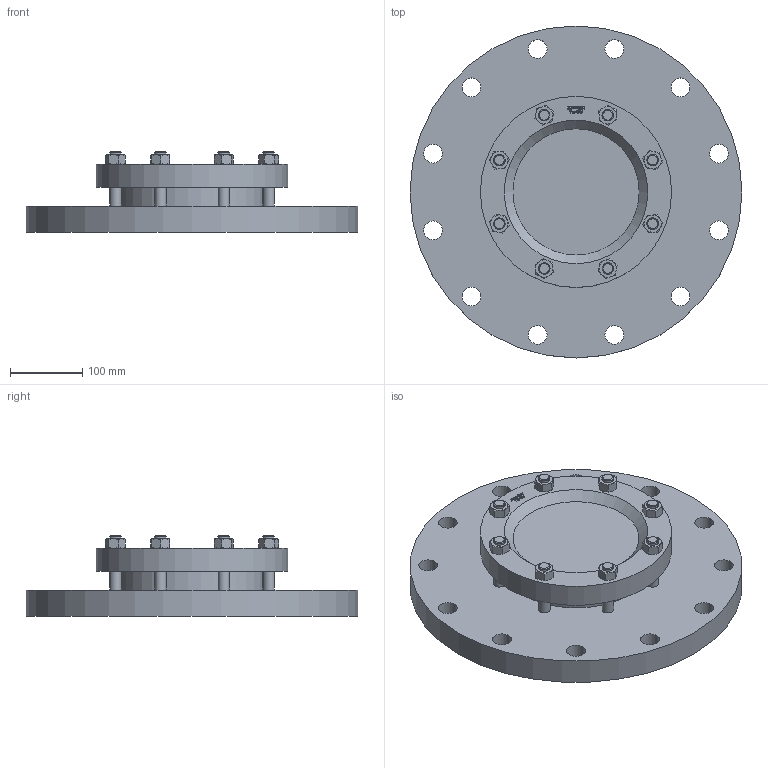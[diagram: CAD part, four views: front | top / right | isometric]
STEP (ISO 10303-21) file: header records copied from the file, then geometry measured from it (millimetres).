
FILE_DESCRIPTION(/* description */ (''),/* implementation_level */ '2;1');
FILE_NAME(/* name */ 'W:\Konstruktion_ACI\325\_STEP\325-300-16.stp',/* time_stamp */ '2022-03-02T17:03:15+01:00',/* author */ ('koslowksi'),/* organization */ (''),/* preprocessor_version */ 'ST-DEVELOPER v16.1',/* originating_system */ 'Autodesk Inventor 2016',/* authorisation */ '');
FILE_SCHEMA (('AUTOMOTIVE_DESIGN { 1 0 10303 214 3 1 1 }'));
Length unit declared in the file: millimetre
Products named in the file (1): 325-300-16
Bounding box: 460 x 460 x 111 mm (x, y, z)
Volume: 8137821 mm3; surface area: 515691.9 mm2
Topology: 1 solids, 1 shells, 443 faces, 1125 edges, 722 vertices
Faces by surface type: plane 199, bspline 108, cone 105, cylinder 31
Full cylindrical faces by diameter (mm): 16 x16, 26 x12, 204 x1, 265 x1, 460 x1
Entity records: 13744 total; most frequent: CARTESIAN_POINT 3999, ORIENTED_EDGE 2130, DIRECTION 1497, EDGE_CURVE 1065, VERTEX_POINT 702, EDGE_LOOP 561, AXIS2_PLACEMENT_3D 504, LINE 489
